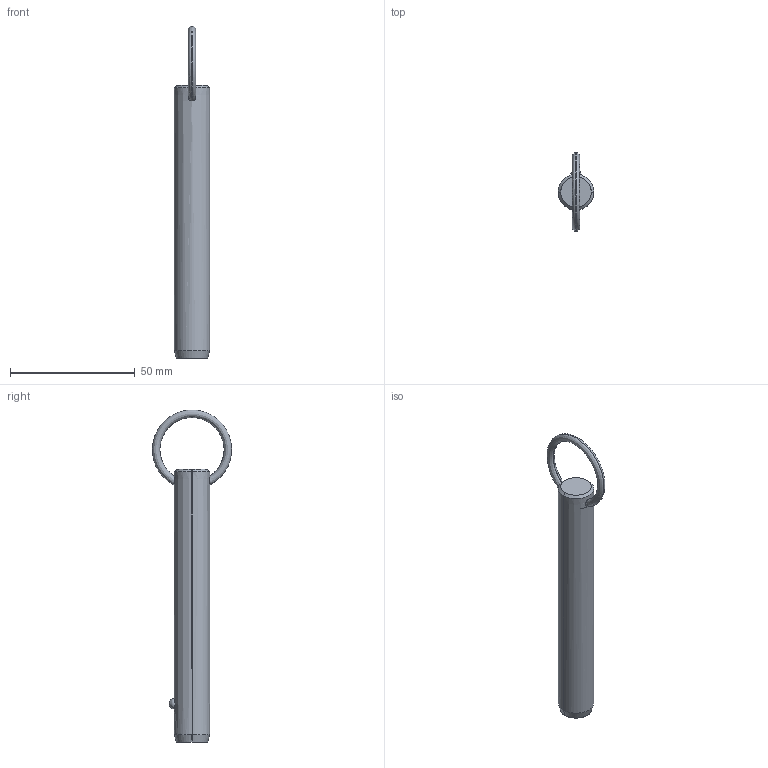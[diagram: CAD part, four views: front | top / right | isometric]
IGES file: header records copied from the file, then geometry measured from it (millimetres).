
Start section: SolidWorks IGES file using analytic representation for surfaces
Global section: file name: C:\Users\liam_\OneDrive\Documents\WORK\Work for WixRoyd\Job Files\J-00019 - Matt Davis CAD Checking\04. CAD Drawings\automotion20190605\P1250.2_v2\P1250.2_v2_20190729_IGES\P1250.056-330.igs; native system: SolidWorks 2017; preprocessor: SolidWorks 2017; author: liam_; date: 190729.232027; units: millimetre
Bounding box: 14.2 x 31.68 x 132.9 mm (x, y, z)
Surface area: 5832.9 mm2 (no closed solid volume)
Topology: 0 solids, 0 shells, 12 faces, 285 edges, 283 vertices
Faces by surface type: revolution 8, bspline 4
